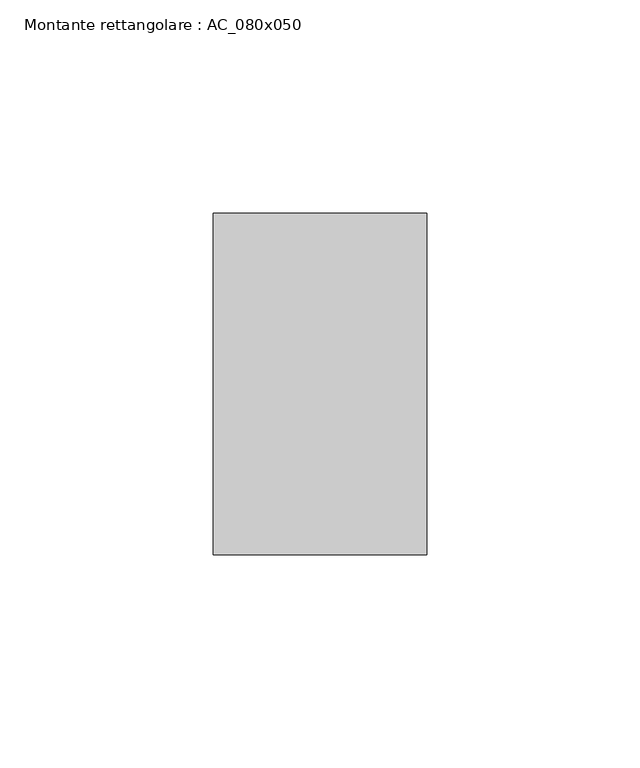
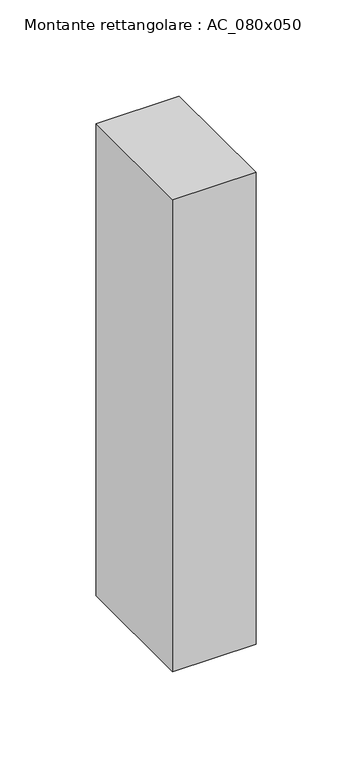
"""IFC4 building model written with IfcOpenShell, lengths in millimetres: member geometry, Montante rettangolare : AC_080x050."""

from ifc_helpers import new_model, si_unit, frame, origin, place, context, project, spatial, polyline, outline, extrude, source, transform, mapped, element, save


def montante_rettangolare_ac_080x050_248bea0a(model_context):
    return source(origin(), model_context, "Body", "SweptSolid", [
        extrude(outline(polyline([(0.0, 40.0), (0.0, -40.0), (-50.0, -40.0), (-50.0, 40.0), (0.0, 40.0)])), frame((0.0, 0.0, -300.0), z_axis=(0.0, 0.0, 1.0), x_axis=(1.0, 0.0, 0.0)), (0.0, 0.0, 1.0), 300.0),
    ])


if __name__ == "__main__":
    model = new_model("IFC4")
    model_context = context("Model", 3, world=origin())
    ifc_project = project(units=[si_unit("LENGTHUNIT", "METRE", prefix="MILLI")], contexts=[model_context])
    site = spatial("IfcSite", under=ifc_project)
    building = spatial("IfcBuilding", under=site)
    placement = place(None, origin())
    montante_rettangolare_ac_080x050_shape = montante_rettangolare_ac_080x050_248bea0a(model_context)
    element("IfcMember", 1, ObjectType="Montante rettangolare : AC_080x050", at=placement, inside=building, context=model_context, shape_type="MappedRepresentation", body=[
        mapped(montante_rettangolare_ac_080x050_shape, transform((0.0, 0.0, 0.0), x_axis=(1.0, 0.0, 0.0), y_axis=(0.0, 1.0, 0.0), z_axis=(0.0, 0.0, 1.0))),
    ])
    save(model, "model.ifc")
